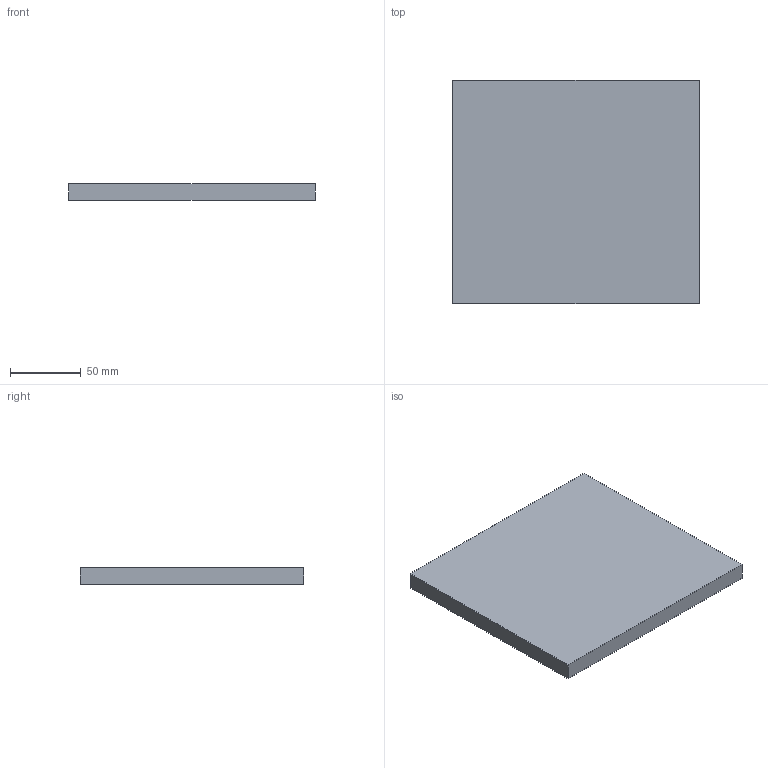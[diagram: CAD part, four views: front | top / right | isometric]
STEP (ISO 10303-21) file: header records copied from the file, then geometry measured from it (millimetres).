
FILE_DESCRIPTION(('Open CASCADE Model'),'2;1');
FILE_NAME('Open CASCADE Shape Model','2026-10-19T10:09:19',('Author'),( 'Open CASCADE'),'Open CASCADE STEP processor 8.0','Open CASCADE 8.0' ,'Unknown');
FILE_SCHEMA(('AUTOMOTIVE_DESIGN { 1 0 10303 214 1 1 1 1 }'));
Length unit declared in the file: millimetre
Products named in the file (1): U02_COLLAR_174x158x12_P05 33
Bounding box: 174 x 158 x 12 mm (x, y, z)
Volume: 329904 mm3; surface area: 62952 mm2
Topology: 1 solids, 1 shells, 6 faces, 12 edges, 8 vertices
Faces by surface type: plane 6
Entity records: 322 total; most frequent: CARTESIAN_POINT 51, DIRECTION 50, LINE 36, VECTOR 36, ORIENTED_EDGE 24, PCURVE 24, DEFINITIONAL_REPRESENTATION 24, EDGE_CURVE 12
